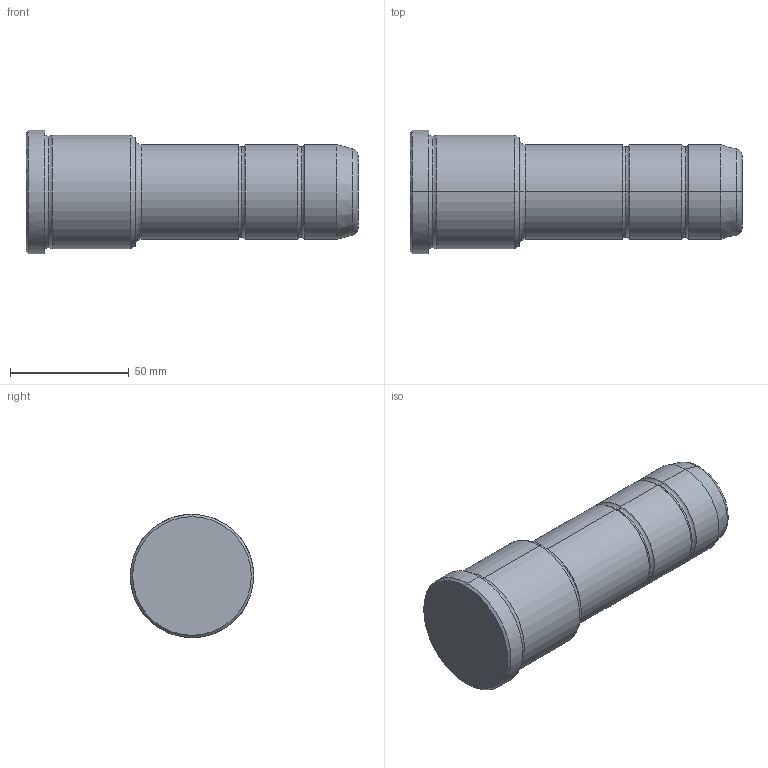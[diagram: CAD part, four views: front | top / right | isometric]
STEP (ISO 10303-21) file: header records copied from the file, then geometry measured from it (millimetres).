
FILE_DESCRIPTION(('CATIA V5 STEP Exchange'),'2;1');
FILE_NAME('C:\Users\Utente\Desktop\IO LAVORO\3D X SITO CF\X SITO\PLASTICA\351\351-40X46X140.stp','2021-10-28T18:37:10+00:00',('none'),('none'),'CATIA Version 5 Release 20 GA (IN-10)','CATIA V5 STEP AP203','none');
FILE_SCHEMA(('CONFIG_CONTROL_DESIGN'));
Length unit declared in the file: millimetre
Products named in the file (1): 351-40X46X140
Bounding box: 140 x 52 x 52 mm (x, y, z)
Volume: 201692.9 mm3; surface area: 22544.9 mm2
Topology: 1 solids, 1 shells, 36 faces, 102 edges, 70 vertices
Faces by surface type: torus 16, cylinder 10, cone 6, plane 4
Entity records: 1292 total; most frequent: CARTESIAN_POINT 321, ORIENTED_EDGE 204, DIRECTION 166, AXIS2_PLACEMENT_3D 115, EDGE_CURVE 102, CIRCLE 78, VERTEX_POINT 70, EDGE_LOOP 38
